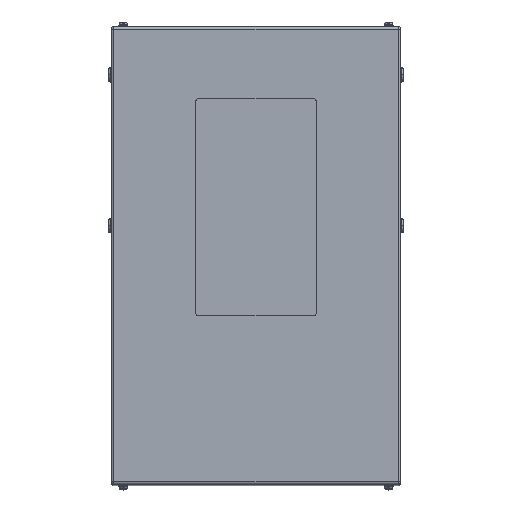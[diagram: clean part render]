
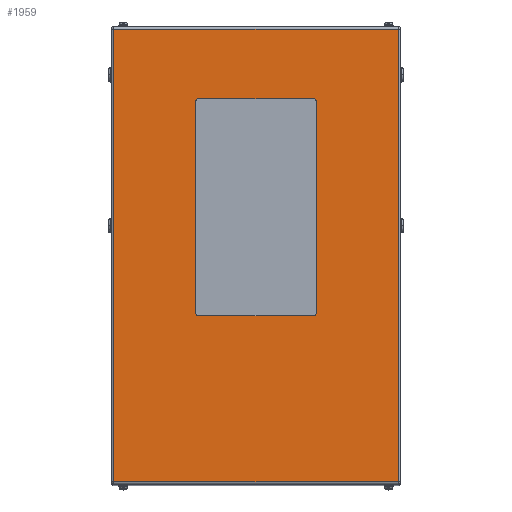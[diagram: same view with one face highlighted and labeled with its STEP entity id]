
A CAD part, top view. The second image highlights one B-rep face of the part: STEP entity #1959.
In plain terms, the highlighted planar face has unit normal (0, 0, 1).
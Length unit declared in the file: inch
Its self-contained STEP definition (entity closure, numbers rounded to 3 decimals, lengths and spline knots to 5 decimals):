
#74 = AXIS2_PLACEMENT_3D ( 'NONE', #23991, #12866, #16783 ) ;
#472 = CARTESIAN_POINT ( 'NONE',  ( 4.75, -4.75, 27. ) ) ;
#594 = DIRECTION ( 'NONE',  ( 1., 0., 0. ) ) ;
#741 = CARTESIAN_POINT ( 'NONE',  ( 5., -4.75, 27. ) ) ;
#858 = PLANE ( 'NONE',  #4962 ) ;
#952 = CARTESIAN_POINT ( 'NONE',  ( 12., 19., 27. ) ) ;
#1276 = ORIENTED_EDGE ( 'NONE', *, *, #22232, .F. ) ;
#1290 = CARTESIAN_POINT ( 'NONE',  ( 11.8, -18.734, 27. ) ) ;
#1565 = CARTESIAN_POINT ( 'NONE',  ( 12., 18.734, 27. ) ) ;
#1959 = ADVANCED_FACE ( 'NONE', ( #7912, #15309 ), #858, .F. ) ;
#2309 = DIRECTION ( 'NONE',  ( 0., 1., 0. ) ) ;
#3056 = EDGE_CURVE ( 'NONE', #11146, #7939, #14270, .T. ) ;
#3072 = VECTOR ( 'NONE', #3739, 39.37008 ) ;
#3373 = CARTESIAN_POINT ( 'NONE',  ( -5., -4.75, 27. ) ) ;
#3739 = DIRECTION ( 'NONE',  ( 0., 1., 0. ) ) ;
#3814 = CARTESIAN_POINT ( 'NONE',  ( -11.8, -18.734, 27. ) ) ;
#3960 = CARTESIAN_POINT ( 'NONE',  ( 4.75, 13., 27. ) ) ;
#4556 = VERTEX_POINT ( 'NONE', #13620 ) ;
#4770 = ORIENTED_EDGE ( 'NONE', *, *, #6122, .F. ) ;
#4962 = AXIS2_PLACEMENT_3D ( 'NONE', #952, #13005, #18761 ) ;
#5400 = CARTESIAN_POINT ( 'NONE',  ( -11.8, 18.734, 27. ) ) ;
#5502 = CARTESIAN_POINT ( 'NONE',  ( 4.75, -5., 27. ) ) ;
#5764 = DIRECTION ( 'NONE',  ( 1., 0., 0. ) ) ;
#5957 = EDGE_CURVE ( 'NONE', #15884, #17468, #14790, .T. ) ;
#6122 = EDGE_CURVE ( 'NONE', #14651, #19703, #15915, .T. ) ;
#6131 = DIRECTION ( 'NONE',  ( -1., 0., 0. ) ) ;
#6220 = DIRECTION ( 'NONE',  ( 0., -1., 0. ) ) ;
#6360 = DIRECTION ( 'NONE',  ( 0., 0., 1. ) ) ;
#6542 = DIRECTION ( 'NONE',  ( 1., 0., 0. ) ) ;
#6586 = CIRCLE ( 'NONE', #12001, 0.25 ) ;
#6708 = VECTOR ( 'NONE', #6131, 39.37008 ) ;
#6819 = ORIENTED_EDGE ( 'NONE', *, *, #17450, .T. ) ;
#6840 = VERTEX_POINT ( 'NONE', #12912 ) ;
#7546 = EDGE_CURVE ( 'NONE', #6840, #4556, #6586, .T. ) ;
#7634 = EDGE_CURVE ( 'NONE', #4556, #14651, #8292, .T. ) ;
#7912 = FACE_BOUND ( 'NONE', #21559, .T. ) ;
#7939 = VERTEX_POINT ( 'NONE', #14063 ) ;
#8157 = LINE ( 'NONE', #14056, #21655 ) ;
#8292 = LINE ( 'NONE', #9591, #9639 ) ;
#9591 = CARTESIAN_POINT ( 'NONE',  ( -5., 12.75, 27. ) ) ;
#9639 = VECTOR ( 'NONE', #17548, 39.37008 ) ;
#10551 = CIRCLE ( 'NONE', #74, 0.25 ) ;
#10563 = EDGE_CURVE ( 'NONE', #7939, #11534, #14959, .T. ) ;
#11146 = VERTEX_POINT ( 'NONE', #3814 ) ;
#11448 = CARTESIAN_POINT ( 'NONE',  ( 11.8, 19., 27. ) ) ;
#11534 = VERTEX_POINT ( 'NONE', #12640 ) ;
#11735 = VECTOR ( 'NONE', #21367, 39.37008 ) ;
#12001 = AXIS2_PLACEMENT_3D ( 'NONE', #18998, #6360, #15445 ) ;
#12289 = ORIENTED_EDGE ( 'NONE', *, *, #14012, .F. ) ;
#12640 = CARTESIAN_POINT ( 'NONE',  ( 11.8, 18.734, 27. ) ) ;
#12866 = DIRECTION ( 'NONE',  ( 0., 0., 1. ) ) ;
#12912 = CARTESIAN_POINT ( 'NONE',  ( -4.75, 13., 27. ) ) ;
#13005 = DIRECTION ( 'NONE',  ( 0., 0., -1. ) ) ;
#13042 = DIRECTION ( 'NONE',  ( 0., 0., 1. ) ) ;
#13233 = EDGE_CURVE ( 'NONE', #17468, #19580, #10551, .T. ) ;
#13516 = CARTESIAN_POINT ( 'NONE',  ( 5., 12.75, 27. ) ) ;
#13551 = VECTOR ( 'NONE', #2309, 39.37008 ) ;
#13572 = DIRECTION ( 'NONE',  ( 0., 0., 1. ) ) ;
#13620 = CARTESIAN_POINT ( 'NONE',  ( -5., 12.75, 27. ) ) ;
#13676 = ORIENTED_EDGE ( 'NONE', *, *, #10563, .T. ) ;
#13937 = VECTOR ( 'NONE', #14646, 39.37008 ) ;
#13991 = LINE ( 'NONE', #18257, #11735 ) ;
#14012 = EDGE_CURVE ( 'NONE', #18894, #15884, #22750, .T. ) ;
#14056 = CARTESIAN_POINT ( 'NONE',  ( -11.8, 19., 27. ) ) ;
#14063 = CARTESIAN_POINT ( 'NONE',  ( 11.8, -18.734, 27. ) ) ;
#14174 = ORIENTED_EDGE ( 'NONE', *, *, #3056, .T. ) ;
#14262 = EDGE_LOOP ( 'NONE', ( #23102, #14174, #13676, #6819 ) ) ;
#14270 = LINE ( 'NONE', #1290, #17282 ) ;
#14607 = EDGE_CURVE ( 'NONE', #20911, #11146, #8157, .T. ) ;
#14646 = DIRECTION ( 'NONE',  ( 1., 0., 0. ) ) ;
#14651 = VERTEX_POINT ( 'NONE', #3373 ) ;
#14790 = LINE ( 'NONE', #20463, #3072 ) ;
#14878 = CARTESIAN_POINT ( 'NONE',  ( -4.75, -4.75, 27. ) ) ;
#14884 = LINE ( 'NONE', #16850, #13937 ) ;
#14959 = LINE ( 'NONE', #11448, #13551 ) ;
#15309 = FACE_OUTER_BOUND ( 'NONE', #14262, .T. ) ;
#15313 = AXIS2_PLACEMENT_3D ( 'NONE', #472, #13572, #594 ) ;
#15445 = DIRECTION ( 'NONE',  ( 1., 0., 0. ) ) ;
#15495 = AXIS2_PLACEMENT_3D ( 'NONE', #14878, #13042, #5764 ) ;
#15884 = VERTEX_POINT ( 'NONE', #741 ) ;
#15897 = ORIENTED_EDGE ( 'NONE', *, *, #7546, .F. ) ;
#15915 = CIRCLE ( 'NONE', #15495, 0.25 ) ;
#16783 = DIRECTION ( 'NONE',  ( -1., 0., 0. ) ) ;
#16850 = CARTESIAN_POINT ( 'NONE',  ( -4.75, -5., 27. ) ) ;
#17148 = ORIENTED_EDGE ( 'NONE', *, *, #5957, .F. ) ;
#17282 = VECTOR ( 'NONE', #6542, 39.37008 ) ;
#17450 = EDGE_CURVE ( 'NONE', #11534, #20911, #18241, .T. ) ;
#17468 = VERTEX_POINT ( 'NONE', #13516 ) ;
#17548 = DIRECTION ( 'NONE',  ( 0., -1., 0. ) ) ;
#18241 = LINE ( 'NONE', #1565, #6708 ) ;
#18257 = CARTESIAN_POINT ( 'NONE',  ( -4.75, 13., 27. ) ) ;
#18761 = DIRECTION ( 'NONE',  ( -1., 0., 0. ) ) ;
#18894 = VERTEX_POINT ( 'NONE', #5502 ) ;
#18908 = ORIENTED_EDGE ( 'NONE', *, *, #13233, .F. ) ;
#18998 = CARTESIAN_POINT ( 'NONE',  ( -4.75, 12.75, 27. ) ) ;
#19229 = EDGE_CURVE ( 'NONE', #19580, #6840, #13991, .T. ) ;
#19580 = VERTEX_POINT ( 'NONE', #3960 ) ;
#19703 = VERTEX_POINT ( 'NONE', #20065 ) ;
#20065 = CARTESIAN_POINT ( 'NONE',  ( -4.75, -5., 27. ) ) ;
#20463 = CARTESIAN_POINT ( 'NONE',  ( 5., 12.75, 27. ) ) ;
#20911 = VERTEX_POINT ( 'NONE', #5400 ) ;
#21367 = DIRECTION ( 'NONE',  ( -1., 0., 0. ) ) ;
#21395 = ORIENTED_EDGE ( 'NONE', *, *, #19229, .F. ) ;
#21559 = EDGE_LOOP ( 'NONE', ( #1276, #4770, #22379, #15897, #21395, #18908, #17148, #12289 ) ) ;
#21655 = VECTOR ( 'NONE', #6220, 39.37008 ) ;
#22232 = EDGE_CURVE ( 'NONE', #19703, #18894, #14884, .T. ) ;
#22379 = ORIENTED_EDGE ( 'NONE', *, *, #7634, .F. ) ;
#22750 = CIRCLE ( 'NONE', #15313, 0.25 ) ;
#23102 = ORIENTED_EDGE ( 'NONE', *, *, #14607, .T. ) ;
#23991 = CARTESIAN_POINT ( 'NONE',  ( 4.75, 12.75, 27. ) ) ;
